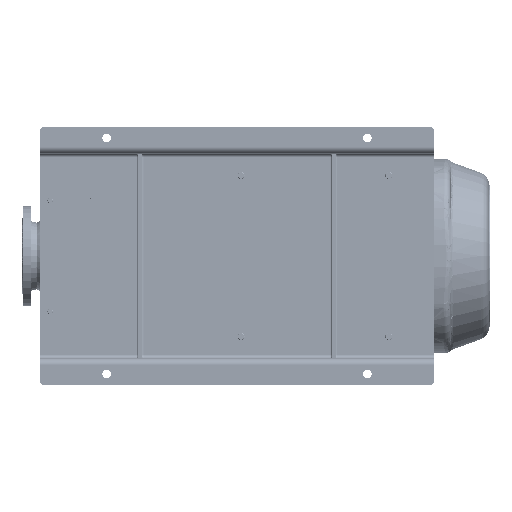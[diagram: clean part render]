
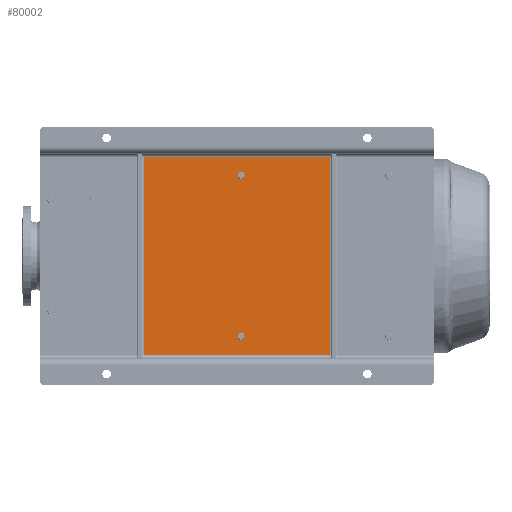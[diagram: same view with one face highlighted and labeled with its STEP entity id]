
A CAD part, front view. The second image highlights one B-rep face of the part: STEP entity #80002.
In plain terms, the highlighted planar face has unit normal (0, -1, 0).
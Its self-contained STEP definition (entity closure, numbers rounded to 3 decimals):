
#1653 = EDGE_LOOP ( 'NONE', ( #98554, #8359, #41610, #66295 ) ) ;
#1975 = VECTOR ( 'NONE', #65895, 1000. ) ;
#7014 = VERTEX_POINT ( 'NONE', #42565 ) ;
#7360 = LINE ( 'NONE', #57564, #124618 ) ;
#8359 = ORIENTED_EDGE ( 'NONE', *, *, #124296, .T. ) ;
#8948 = VERTEX_POINT ( 'NONE', #50896 ) ;
#10711 = CIRCLE ( 'NONE', #34449, 10. ) ;
#12948 = EDGE_CURVE ( 'NONE', #69366, #7014, #160503, .T. ) ;
#14226 = DIRECTION ( 'NONE',  ( 0., -1., 0. ) ) ;
#19060 = AXIS2_PLACEMENT_3D ( 'NONE', #158171, #121953, #80890 ) ;
#24334 = VERTEX_POINT ( 'NONE', #87082 ) ;
#26413 = CARTESIAN_POINT ( 'NONE',  ( 85., 90., -830. ) ) ;
#32711 = VERTEX_POINT ( 'NONE', #161030 ) ;
#33432 = EDGE_CURVE ( 'NONE', #24334, #8948, #147260, .T. ) ;
#34449 = AXIS2_PLACEMENT_3D ( 'NONE', #124593, #127854, #89998 ) ;
#35678 = CARTESIAN_POINT ( 'NONE',  ( 75., 90., -1120. ) ) ;
#41015 = DIRECTION ( 'NONE',  ( 0., 1., 0. ) ) ;
#41481 = CARTESIAN_POINT ( 'NONE',  ( 593.5, 90., -571.5 ) ) ;
#41610 = ORIENTED_EDGE ( 'NONE', *, *, #12948, .T. ) ;
#42565 = CARTESIAN_POINT ( 'NONE',  ( 645., 90., -295. ) ) ;
#43661 = VECTOR ( 'NONE', #97350, 1000. ) ;
#45978 = CARTESIAN_POINT ( 'NONE',  ( 645., 90., -825. ) ) ;
#47292 = VERTEX_POINT ( 'NONE', #91111 ) ;
#50896 = CARTESIAN_POINT ( 'NONE',  ( 593.5, 90., -561.5 ) ) ;
#53777 = EDGE_LOOP ( 'NONE', ( #160336, #120986 ) ) ;
#53804 = DIRECTION ( 'NONE',  ( 0., 0., 1. ) ) ;
#55976 = EDGE_CURVE ( 'NONE', #32711, #84471, #119035, .T. ) ;
#57532 = AXIS2_PLACEMENT_3D ( 'NONE', #128273, #41015, #141410 ) ;
#57564 = CARTESIAN_POINT ( 'NONE',  ( 75., 90., -825. ) ) ;
#58791 = AXIS2_PLACEMENT_3D ( 'NONE', #35678, #14226, #139327 ) ;
#60140 = DIRECTION ( 'NONE',  ( 0., 0., 1. ) ) ;
#61177 = FACE_BOUND ( 'NONE', #87207, .T. ) ;
#61989 = FACE_BOUND ( 'NONE', #53777, .T. ) ;
#65895 = DIRECTION ( 'NONE',  ( 0., 0., -1. ) ) ;
#66295 = ORIENTED_EDGE ( 'NONE', *, *, #118738, .T. ) ;
#69366 = VERTEX_POINT ( 'NONE', #45978 ) ;
#74296 = CARTESIAN_POINT ( 'NONE',  ( 75., 90., -295. ) ) ;
#80002 = ADVANCED_FACE ( 'NONE', ( #61177, #61989, #136107 ), #136908, .T. ) ;
#80114 = DIRECTION ( 'NONE',  ( 0., 1., 0. ) ) ;
#80890 = DIRECTION ( 'NONE',  ( 0., 0., -1. ) ) ;
#82327 = VERTEX_POINT ( 'NONE', #116595 ) ;
#84471 = VERTEX_POINT ( 'NONE', #94171 ) ;
#87082 = CARTESIAN_POINT ( 'NONE',  ( 593.5, 90., -581.5 ) ) ;
#87207 = EDGE_LOOP ( 'NONE', ( #103192, #136332 ) ) ;
#89998 = DIRECTION ( 'NONE',  ( 0., 0., 1. ) ) ;
#91111 = CARTESIAN_POINT ( 'NONE',  ( 85., 90., -295. ) ) ;
#94036 = EDGE_CURVE ( 'NONE', #47292, #82327, #153121, .T. ) ;
#94171 = CARTESIAN_POINT ( 'NONE',  ( 136.5, 90., -581.5 ) ) ;
#97350 = DIRECTION ( 'NONE',  ( -1., 0., 0. ) ) ;
#98554 = ORIENTED_EDGE ( 'NONE', *, *, #94036, .T. ) ;
#98690 = EDGE_CURVE ( 'NONE', #84471, #32711, #157374, .T. ) ;
#103192 = ORIENTED_EDGE ( 'NONE', *, *, #138717, .T. ) ;
#111317 = LINE ( 'NONE', #74296, #43661 ) ;
#116595 = CARTESIAN_POINT ( 'NONE',  ( 85., 90., -825. ) ) ;
#118738 = EDGE_CURVE ( 'NONE', #7014, #47292, #111317, .T. ) ;
#119035 = CIRCLE ( 'NONE', #19060, 10. ) ;
#120986 = ORIENTED_EDGE ( 'NONE', *, *, #98690, .T. ) ;
#121953 = DIRECTION ( 'NONE',  ( 0., 1., 0. ) ) ;
#124296 = EDGE_CURVE ( 'NONE', #82327, #69366, #7360, .T. ) ;
#124593 = CARTESIAN_POINT ( 'NONE',  ( 593.5, 90., -571.5 ) ) ;
#124618 = VECTOR ( 'NONE', #153898, 1000. ) ;
#127854 = DIRECTION ( 'NONE',  ( 0., 1., 0. ) ) ;
#128273 = CARTESIAN_POINT ( 'NONE',  ( 136.5, 90., -571.5 ) ) ;
#136107 = FACE_OUTER_BOUND ( 'NONE', #1653, .T. ) ;
#136332 = ORIENTED_EDGE ( 'NONE', *, *, #33432, .T. ) ;
#136908 = PLANE ( 'NONE',  #58791 ) ;
#138717 = EDGE_CURVE ( 'NONE', #8948, #24334, #10711, .T. ) ;
#139327 = DIRECTION ( 'NONE',  ( 0., 0., -1. ) ) ;
#139383 = AXIS2_PLACEMENT_3D ( 'NONE', #41481, #80114, #53804 ) ;
#141410 = DIRECTION ( 'NONE',  ( 0., 0., -1. ) ) ;
#145747 = CARTESIAN_POINT ( 'NONE',  ( 645., 90., -290. ) ) ;
#147260 = CIRCLE ( 'NONE', #139383, 10. ) ;
#153121 = LINE ( 'NONE', #26413, #1975 ) ;
#153898 = DIRECTION ( 'NONE',  ( 1., 0., 0. ) ) ;
#157374 = CIRCLE ( 'NONE', #57532, 10. ) ;
#158171 = CARTESIAN_POINT ( 'NONE',  ( 136.5, 90., -571.5 ) ) ;
#160245 = VECTOR ( 'NONE', #60140, 1000. ) ;
#160336 = ORIENTED_EDGE ( 'NONE', *, *, #55976, .T. ) ;
#160503 = LINE ( 'NONE', #145747, #160245 ) ;
#161030 = CARTESIAN_POINT ( 'NONE',  ( 136.5, 90., -561.5 ) ) ;
